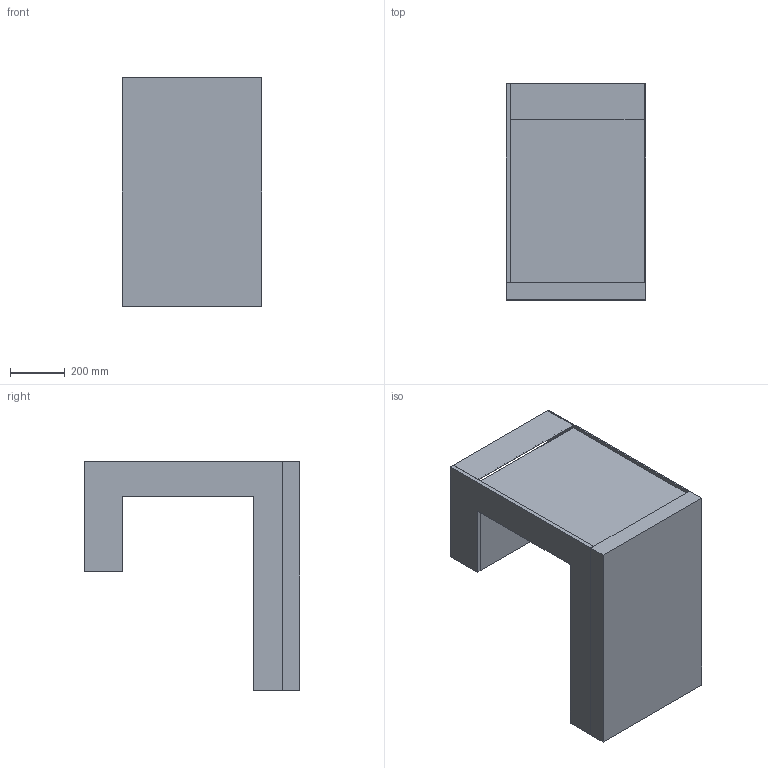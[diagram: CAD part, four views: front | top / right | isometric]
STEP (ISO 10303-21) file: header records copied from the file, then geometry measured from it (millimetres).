
FILE_DESCRIPTION(/* description */ (''),/* implementation_level */ '2;1');
FILE_NAME(/* name */ 'ChamberTopFlowVanes.step',/* time_stamp */ '2024-09-30T15:17:58-07:00',/* author */ (''),/* organization */ (''),/* preprocessor_version */ 'ST-DEVELOPER v20',/* originating_system */ 'Autodesk Translation Framework v13.20.0.188',/* authorisation */ '');
FILE_SCHEMA (('AUTOMOTIVE_DESIGN { 1 0 10303 214 3 1 1 }'));
Length unit declared in the file: millimetre
Products named in the file (1): ChamberTopFlowVanes
Bounding box: 510 x 790 x 837.71 mm (x, y, z)
Volume: 125298972.1 mm3; surface area: 5108088.1 mm2
Topology: 1 solids, 2 shells, 1702 faces, 5066 edges, 3366 vertices
Faces by surface type: plane 1659, cylinder 43
Entity records: 57327 total; most frequent: CARTESIAN_POINT 10135, ORIENTED_EDGE 10132, DIRECTION 8558, EDGE_CURVE 5066, LINE 4980, VECTOR 4980, VERTEX_POINT 3366, EDGE_LOOP 2396
